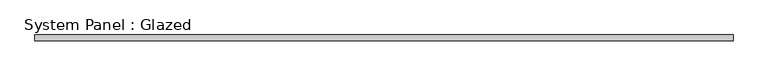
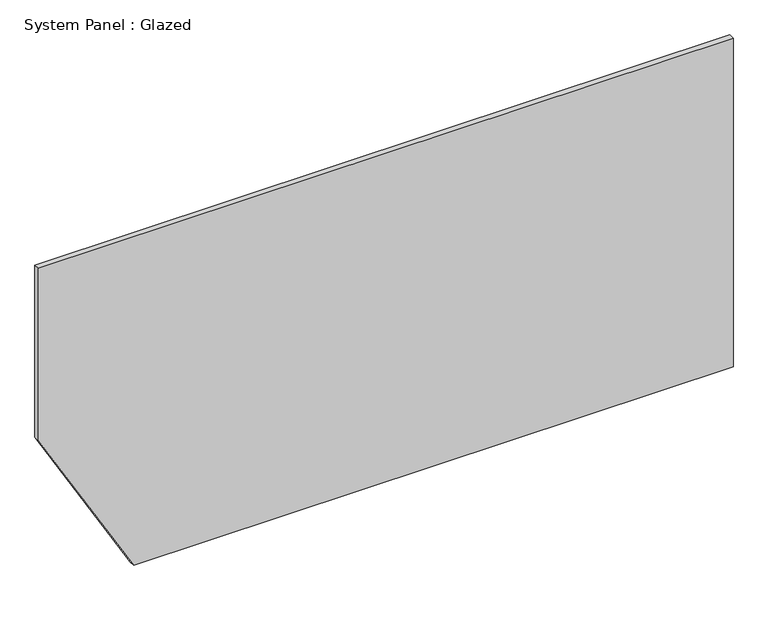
"""IFC4 building model written with IfcOpenShell, lengths in millimetres: plate geometry, System Panel : Glazed."""

from ifc_helpers import new_model, si_unit, frame, origin, place, context, project, spatial, polyline, outline, extrude, source, transform, mapped, element, save


def system_panel_glazed_10bb1eec(model_context):
    return source(origin(), model_context, "Body", "SweptSolid", [
        extrude(outline(polyline([(0.0, -1105.5323056), (0.0, 1524.0), (1524.0, 1524.0), (1524.0, -1524.0), (724.807308, -1524.0), (0.0, -1105.5323056)])), frame((0.0, 19.05, 0.0), z_axis=(0.0, 1.0, 0.0), x_axis=(0.0, 0.0, 1.0)), (0.0, 0.0, 1.0), 25.4),
    ])


if __name__ == "__main__":
    model = new_model("IFC4")
    model_context = context("Model", 3, world=origin())
    ifc_project = project(units=[si_unit("LENGTHUNIT", "METRE", prefix="MILLI")], contexts=[model_context])
    site = spatial("IfcSite", under=ifc_project)
    building = spatial("IfcBuilding", under=site)
    placement = place(None, origin())
    system_panel_glazed_shape = system_panel_glazed_10bb1eec(model_context)
    element("IfcPlate", 1, ObjectType="System Panel : Glazed", at=placement, inside=building, context=model_context, shape_type="MappedRepresentation", body=[
        mapped(system_panel_glazed_shape, transform((0.0, 0.0, 0.0), x_axis=(1.0, 0.0, 0.0), y_axis=(0.0, 1.0, 0.0), z_axis=(0.0, 0.0, 1.0))),
    ])
    save(model, "model.ifc")
